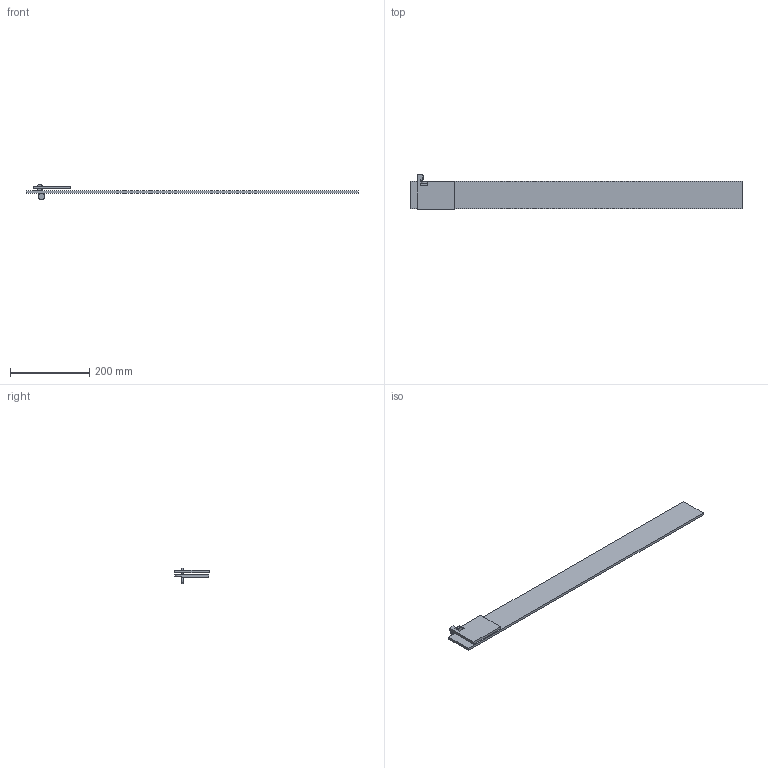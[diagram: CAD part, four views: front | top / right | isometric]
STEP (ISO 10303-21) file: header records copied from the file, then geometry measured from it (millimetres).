
FILE_DESCRIPTION(/* description */ (''),/* implementation_level */ '2;1');
FILE_NAME(/* name */ 'D:/dropbox/CBA/projects/machines/rctgantries/cad/dev/n17/RCTN17-025-01875-ALU v2.step',/* time_stamp */ '2019-01-06T17:35:57-05:00',/* author */ ('jakerobertread@gmail.com'),/* organization */ (''),/* preprocessor_version */ 'ST-DEVELOPER v17.2',/* originating_system */ 'Autodesk Translation Framework v7.6.0.251',/* authorisation */ '');
FILE_SCHEMA (('AUTOMOTIVE_DESIGN { 1 0 10303 214 3 1 1 }'));
Length unit declared in the file: millimetre
Products named in the file (1): RCTN17-025-01875-ALU
Bounding box: 836 x 87 x 38.35 mm (x, y, z)
Volume: 417385.2 mm3; surface area: 146491.2 mm2
Topology: 5 solids, 5 shells, 27 faces, 51 edges, 34 vertices
Faces by surface type: plane 24, cylinder 3
Full cylindrical faces by diameter (mm): 16 x3
Entity records: 700 total; most frequent: DIRECTION 113, CARTESIAN_POINT 113, ORIENTED_EDGE 102, EDGE_CURVE 51, LINE 45, VECTOR 45, VERTEX_POINT 34, AXIS2_PLACEMENT_3D 34
